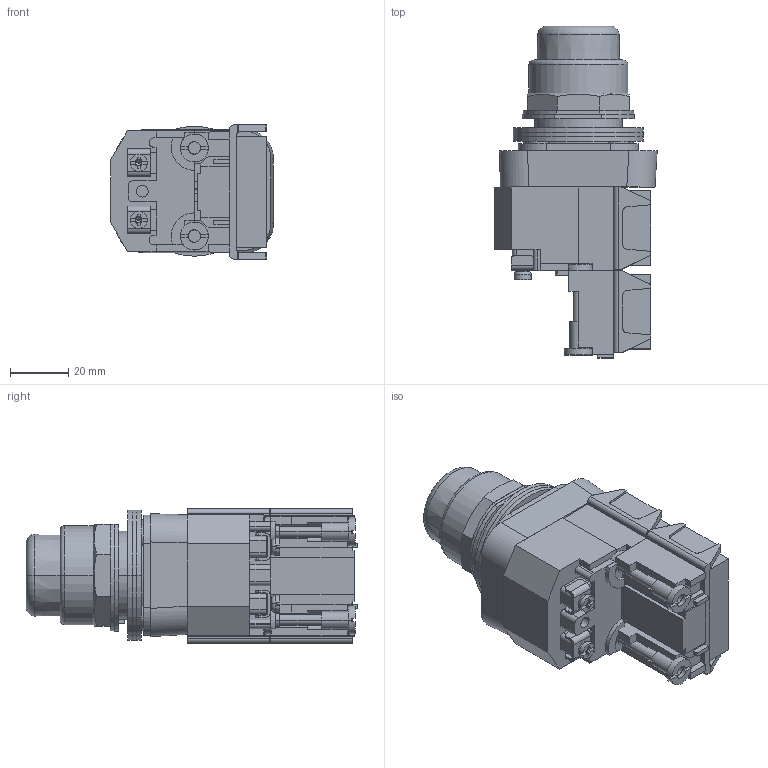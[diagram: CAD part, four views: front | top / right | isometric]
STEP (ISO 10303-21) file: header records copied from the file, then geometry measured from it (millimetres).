
FILE_DESCRIPTION((''),'2;1');
FILE_NAME('800H-PRT16AG1_S_ASM','2013-10-30T',('wwhu'),('Rockwell Automation'),'PRO/ENGINEER BY PARAMETRIC TECHNOLOGY CORPORATION, 2010140','PRO/ENGINEER BY PARAMETRIC TECHNOLOGY CORPORATION, 2010140','');
FILE_SCHEMA(('CONFIG_CONTROL_DESIGN'));
Length unit declared in the file: inch
Products named in the file (14): 40271-082_S; 40209-017_S; GASKET-S; TRIM_WASHER-S; THRUST_WASHER-S; 40209-021_S; 40271-109_S; 800T-N32_S; CB_BASE_S_1; CB_COVER_S_1; CB_SCREW_S_1; 800T-XD4_S_ASM_1_ASM; 800T-XD4_S_ASM; 800H-PRT16AG1_S_ASM
Assembly tree (17 placements, depth 4):
  800H-PRT16AG1_S_ASM
    40271-082_S
    40209-017_S
    GASKET-S  x3
    TRIM_WASHER-S
    THRUST_WASHER-S
    40209-021_S
    40271-109_S
    800T-N32_S
    800T-XD4_S_ASM  x2
      800T-XD4_S_ASM_1_ASM
        CB_BASE_S_1
        CB_COVER_S_1
        CB_SCREW_S_1  x2
Bounding box: 55.54 x 113.49 x 46 mm (x, y, z)
Volume: 128306.6 mm3; surface area: 63495 mm2
Topology: 20 solids, 22 shells, 1028 faces, 2666 edges, 1745 vertices
Faces by surface type: plane 664, cylinder 300, cone 48, torus 16
Entity records: 22490 total; most frequent: CARTESIAN_POINT 4260, DIRECTION 3800, ORIENTED_EDGE 3704, EDGE_CURVE 1852, AXIS2_PLACEMENT_3D 1278, VECTOR 1244, LINE 1244, VERTEX_POINT 1211
